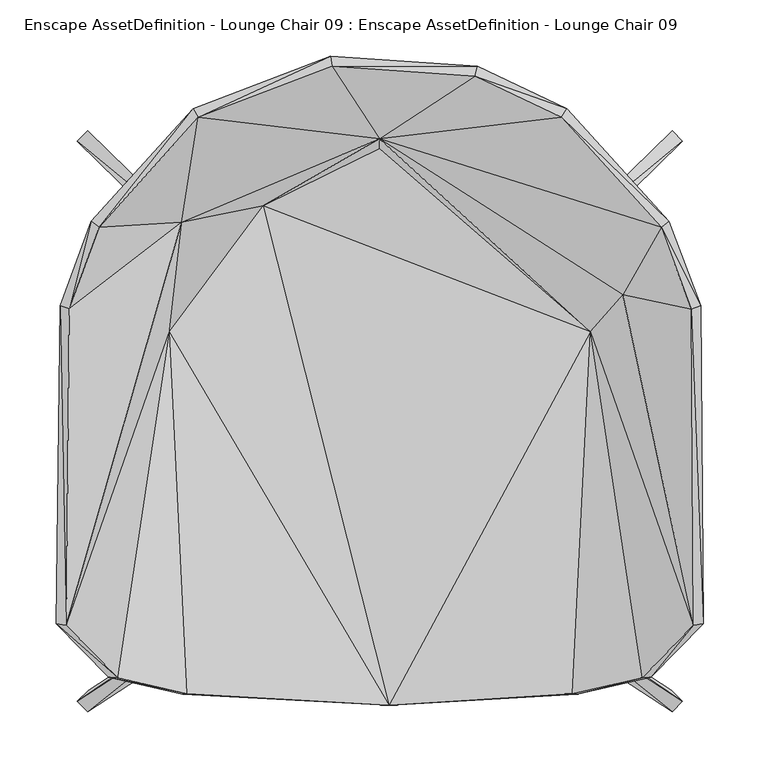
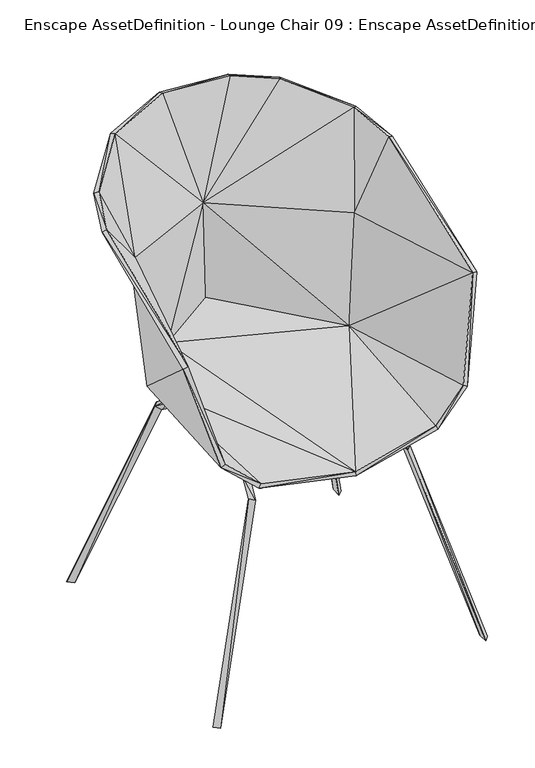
"""IFC4 building model written with IfcOpenShell, lengths in millimetres: geographic element geometry, Enscape AssetDefinition - Lounge Chair 09 : Enscape AssetDefinition - Lounge Chair 09."""

import ifcopenshell
import ifcopenshell.guid

model = None  # the IFC model being written
_history = None  # IfcOwnerHistory: only IFC2X3 demands one
_inside = {}  # id of a spatial element -> (the spatial element, [elements in it])
_under = {}  # id of a project, library or spatial element -> (it, [spatial elements below it])
_declared = {}  # id of a project -> (the project, [libraries it declares])
_typed = {}  # id of a type object -> (the type object, [elements of that type])
_made_of = {}  # id of a material, layer set ... -> (it, [elements and type objects made of it])


def new_model(schema):
    """Start an empty IFC model of exactly this schema.

    Asked for "IFC4X3", IfcOpenShell would pick the latest addendum, in which some entities
    have other attributes; the version numbers below select the first issue.
    IFC2X3 requires an IfcOwnerHistory on every rooted entity: one is made here for all.
    """
    global model, _history
    if schema == "IFC4X3":
        model = ifcopenshell.file(schema_version=(4, 3, 0, 0))
    else:
        model = ifcopenshell.file(schema=schema)
    _inside.clear()
    _under.clear()
    _declared.clear()
    _typed.clear()
    _made_of.clear()
    _history = None
    if model.schema == "IFC2X3":
        org = make("IfcOrganization", Name="unknown")
        user = make(
            "IfcPersonAndOrganization",
            ThePerson=make("IfcPerson", FamilyName="unknown"),
            TheOrganization=org,
        )
        app = make(
            "IfcApplication",
            ApplicationDeveloper=org,
            Version="unknown",
            ApplicationFullName="unknown",
            ApplicationIdentifier="unknown",
        )
        _history = make(
            "IfcOwnerHistory",
            OwningUser=user,
            OwningApplication=app,
            ChangeAction="ADDED",
            CreationDate=0,
        )
    return model


def make(cls, **values):
    """One entity of the class cls with the attributes given. An attribute that is None is left unset."""
    return model.create_entity(
        cls, **{name: value for name, value in values.items() if value is not None}
    )


def rooted(cls, **values):
    """An entity with a GlobalId (a new one), such as an element, a storey or a relation."""
    return make(cls, GlobalId=ifcopenshell.guid.new(), OwnerHistory=_history, **values)


def si_unit(unit_type, name, prefix=None):
    """IfcSIUnit, for example si_unit("LENGTHUNIT", "METRE", prefix="MILLI")."""
    return make("IfcSIUnit", UnitType=unit_type, Prefix=prefix, Name=name)


def assignment(units):
    """IfcUnitAssignment: the units of a project."""
    return None if units is None else make("IfcUnitAssignment", Units=units)


def point(xyz):
    """IfcCartesianPoint."""
    return None if xyz is None else make("IfcCartesianPoint", Coordinates=xyz)


def direction(xyz):
    """IfcDirection."""
    return None if xyz is None else make("IfcDirection", DirectionRatios=xyz)


def frame(location, z_axis=None, x_axis=None):
    """IfcAxis2Placement3D, a coordinate frame: its origin and axes. An axis left out is left unset."""
    return make(
        "IfcAxis2Placement3D",
        Location=point(location),
        Axis=direction(z_axis),
        RefDirection=direction(x_axis),
    )


def origin():
    """The frame at (0, 0, 0) with its axes left unset."""
    return frame((0.0, 0.0, 0.0))


def place(relative_to, where):
    """IfcLocalPlacement: puts the frame where relative to a parent placement (None: the world)."""
    return make(
        "IfcLocalPlacement", PlacementRelTo=relative_to, RelativePlacement=where
    )


def context(
    kind, dimensions, precision=None, world=None, true_north=None, identifier=None
):
    """IfcGeometricRepresentationContext, for example the 3D "Model" context."""
    return make(
        "IfcGeometricRepresentationContext",
        ContextIdentifier=identifier,
        ContextType=kind,
        CoordinateSpaceDimension=dimensions,
        Precision=precision,
        WorldCoordinateSystem=world,
        TrueNorth=true_north,
    )


def project(units=None, contexts=None):
    """IfcProject with its units and contexts."""
    return rooted(
        "IfcProject",
        Name="project",
        RepresentationContexts=contexts,
        UnitsInContext=assignment(units),
    )


def spatial(cls, under=None, at=None, **own):
    """A site, building, storey or space (cls), placed at a placement, below another one or the project."""
    s = rooted(cls, ObjectPlacement=at, **own)
    if under is not None:
        _under.setdefault(under.id(), (under, []))[1].append(s)
    return s


def faces_of(points, faces, orient=None, outer=None):
    """IfcFace entities. A face is a list of loops; a loop is a list of indices into points, from 0.

    orient and outer hold one flag for each loop. By default every Orientation is true, the
    first loop of a face is its IfcFaceOuterBound and the others are IfcFaceBound.
    """
    made = []
    for i, loops in enumerate(faces):
        bounds = []
        for j, loop in enumerate(loops):
            is_outer = j == 0 if outer is None else outer[i][j]
            bounds.append(
                make(
                    "IfcFaceOuterBound" if is_outer else "IfcFaceBound",
                    Bound=make("IfcPolyLoop", Polygon=[points[k] for k in loop]),
                    Orientation=True if orient is None else orient[i][j],
                )
            )
        made.append(make("IfcFace", Bounds=bounds))
    return made


def faceted_brep(points, faces, orient=None, outer=None, voids=None):
    """IfcFacetedBrep: a solid bounded by flat faces; with voids (closed shells), ...WithVoids."""
    shared = [point(p) for p in points]
    hull = make("IfcClosedShell", CfsFaces=faces_of(shared, faces, orient, outer))
    if voids is None:
        return make("IfcFacetedBrep", Outer=hull)
    return make(
        "IfcFacetedBrepWithVoids",
        Outer=hull,
        Voids=[
            make(cls, CfsFaces=faces_of(shared, fs, o, b)) for cls, fs, o, b in voids
        ],
    )


def shape(context_of_items, identifier, shape_type, items):
    """IfcShapeRepresentation: the items that make up one representation, for example the "Body"."""
    return make(
        "IfcShapeRepresentation",
        ContextOfItems=context_of_items,
        RepresentationIdentifier=identifier,
        RepresentationType=shape_type,
        Items=items,
    )


def source(mapping_origin, context_of_items, identifier, shape_type, items):
    """IfcRepresentationMap: a shape defined once, which mapped items show again and again."""
    return make(
        "IfcRepresentationMap",
        MappingOrigin=mapping_origin,
        MappedRepresentation=shape(context_of_items, identifier, shape_type, items),
    )


def transform(
    local_origin,
    x_axis=None,
    y_axis=None,
    z_axis=None,
    scale=None,
    scale2=None,
    scale3=None,
    uniform=True,
):
    """IfcCartesianTransformationOperator3D, or its non-uniform kind. x_axis, y_axis, z_axis: its Axis1, 2, 3."""
    if uniform:
        return make(
            "IfcCartesianTransformationOperator3D",
            Axis1=direction(x_axis),
            Axis2=direction(y_axis),
            LocalOrigin=point(local_origin),
            Scale=scale,
            Axis3=direction(z_axis),
        )
    return make(
        "IfcCartesianTransformationOperator3DnonUniform",
        Axis1=direction(x_axis),
        Axis2=direction(y_axis),
        LocalOrigin=point(local_origin),
        Scale=scale,
        Axis3=direction(z_axis),
        Scale2=scale2,
        Scale3=scale3,
    )


def mapped(mapping_source, mapping_target):
    """IfcMappedItem: shows the shape of a source again, moved by a transform."""
    return make(
        "IfcMappedItem", MappingSource=mapping_source, MappingTarget=mapping_target
    )


def made_of(thing, what):
    """Note that an element or type object is made of a material, layer set ...; save() writes the relation."""
    if what is not None:
        _made_of.setdefault(what.id(), (what, []))[1].append(thing)
    return thing


def element(
    cls,
    number,
    at=None,
    inside=None,
    cuts=None,
    type_object=None,
    material=None,
    context=None,
    identifier="Body",
    shape_type=None,
    held_by="IfcProductDefinitionShape",
    body=None,
    shapes=None,
    **own,
):
    """One element of the class cls, such as IfcWall. Its Tag is "e" and its number.

    at: its placement. inside: the storey or other place that contains it. cuts: it is an
    opening in that element (IfcRelVoidsElement). A single representation is given by context,
    identifier, shape_type and body (its items); several are given by shapes. held_by: the class
    of the entity that holds the representations. save() writes the other relations.
    """
    e = rooted(cls, Tag="e%d" % number, ObjectPlacement=at, **own)
    if body is not None:
        shapes = [shape(context, identifier, shape_type, body)]
    if shapes is not None:
        e.Representation = make(held_by, Representations=shapes)
    if inside is not None:
        _inside.setdefault(inside.id(), (inside, []))[1].append(e)
    if cuts is not None:
        rooted(
            "IfcRelVoidsElement", RelatingBuildingElement=cuts, RelatedOpeningElement=e
        )
    if type_object is not None:
        _typed.setdefault(type_object.id(), (type_object, []))[1].append(e)
    return made_of(e, material)


def aggregate(whole, parts):
    """IfcRelAggregates: a whole, such as a stair, and the parts it consists of."""
    return rooted("IfcRelAggregates", RelatingObject=whole, RelatedObjects=parts)


def save(model, path):
    """Write the relations noted so far, then the file.

    IfcRelAggregates (storeys below a building ...), IfcRelContainedInSpatialStructure (elements
    in a storey), IfcRelDefinesByType, IfcRelAssociatesMaterial and IfcRelDeclares: one each for
    every whole, place, type object, material and project.
    """
    for whole, parts in _under.values():
        aggregate(whole, parts)
    for where, things in _inside.values():
        rooted(
            "IfcRelContainedInSpatialStructure",
            RelatedElements=things,
            RelatingStructure=where,
        )
    for kind, things in _typed.values():
        rooted("IfcRelDefinesByType", RelatedObjects=things, RelatingType=kind)
    for what, things in _made_of.values():
        rooted("IfcRelAssociatesMaterial", RelatedObjects=things, RelatingMaterial=what)
    for by, libraries in _declared.values():
        rooted("IfcRelDeclares", RelatingContext=by, RelatedDefinitions=libraries)
    model.write(path)


def enscape_assetdefinition_lounge_chair_09_enscape_42831ebe(model_context):
    return source(origin(), model_context, "Body", "Brep", [
        faceted_brep([(258.9002252, 259.8875165, -0.2324126), (158.522144, 162.0799154, 389.5681798), (149.9228776, 153.7009627, 384.1864467), (268.9516246, 269.6813643, -0.2324126), (149.1782218, 171.3271439, 390.1715279), (151.2373984, 127.3416579, 415.2702093), (140.0908828, 127.9905587, 422.2351611), (259.778738, 279.0959477, -0.2324126), (144.2724615, 126.7550588, 404.1237235), (151.2373984, -124.1418049, 415.2702093), (140.0908828, -124.8334721, 422.2360849), (144.2724615, -123.5142946, 404.1237235), (158.4217399, -155.5667818, 389.9205029), (149.2814124, -165.0371253, 389.8043036), (149.6374756, -146.9870359, 385.1895034), (268.9432502, -227.3692638, -0.2324126), (259.7843111, -236.8275225, -0.2324126), (258.8936985, -217.9667801, -0.2324126)], [[[0, 1, 2]], [[1, 0, 3]], [[3, 4, 1]], [[5, 2, 1]], [[6, 1, 4]], [[1, 6, 5]], [[2, 7, 0]], [[7, 3, 0]], [[4, 3, 7]], [[7, 2, 4]], [[8, 4, 2]], [[4, 8, 6]], [[2, 5, 8]], [[9, 8, 5]], [[10, 5, 6]], [[5, 10, 9]], [[11, 6, 8]], [[6, 11, 10]], [[8, 9, 11]], [[12, 11, 9]], [[13, 9, 10]], [[9, 13, 12]], [[14, 10, 11]], [[10, 14, 13]], [[11, 12, 14]], [[15, 14, 12]], [[16, 12, 13]], [[12, 16, 15]], [[17, 13, 14]], [[13, 17, 16]], [[14, 15, 17]], [[17, 15, 16]]]),
        faceted_brep([(-258.8983476, 259.8875165, -0.2324126), (-158.5193574, 162.0799154, 389.5681798), (-268.9497471, 269.6813643, -0.2324126), (-149.9210149, 153.7009627, 384.1864467), (-149.1763592, 171.3271439, 390.1715279), (-151.2355357, 127.3416579, 415.2702093), (-140.089035, 127.9905587, 422.2351611), (-259.7768903, 279.0959477, -0.2324126), (-144.2705989, 126.7550588, 404.1237235), (-140.089035, -124.8334721, 422.2360849), (-144.2705989, -123.5142946, 404.1237235), (-151.2355357, -124.1418049, 415.2702093), (-158.4189534, -155.5667818, 389.9205029), (-149.635613, -146.9870359, 385.1895034), (-149.2795497, -165.0371253, 389.8043036), (-268.9413726, -227.3692638, -0.2324126), (-259.7824633, -236.8275225, -0.2324126), (-258.8918507, -217.9667801, -0.2324126)], [[[0, 1, 2]], [[1, 0, 3]], [[4, 2, 1]], [[3, 5, 1]], [[6, 1, 5]], [[1, 6, 4]], [[2, 4, 7]], [[0, 2, 7]], [[7, 3, 0]], [[3, 7, 4]], [[5, 3, 8]], [[4, 8, 3]], [[8, 4, 6]], [[5, 9, 6]], [[10, 6, 9]], [[6, 10, 8]], [[8, 11, 5]], [[9, 5, 11]], [[11, 8, 10]], [[10, 12, 11]], [[12, 10, 13]], [[9, 13, 10]], [[11, 14, 9]], [[13, 9, 14]], [[14, 11, 12]], [[13, 15, 12]], [[16, 12, 15]], [[12, 16, 14]], [[15, 13, 17]], [[14, 17, 13]], [[17, 14, 16]], [[16, 15, 17]]]),
        faceted_brep([(-175.0662029, -221.477136, 457.4809968), (-175.9558618, 108.1787795, 444.9037611), (8.9692678, -231.0636938, 424.8103201), (-240.9765571, -206.4019293, 513.8810277), (-210.8698189, 97.8234038, 487.8387153), (-107.3913649, 217.8859115, 464.332521), (8.339894, -231.0014069, 434.0854287), (-171.5800166, -221.1396694, 466.0923481), (-287.5938714, -158.7387472, 705.7441473), (-233.1712097, -206.5999508, 518.9262629), (-183.1597388, 203.5255879, 679.3448925), (-284.085393, 123.6081868, 816.6784048), (-278.7352502, -160.294041, 708.0971003), (-187.2111559, 100.4626825, 472.0402658), (-103.8410291, 212.3089284, 470.8679914), (-176.1064827, 197.9764998, 681.7740798), (-276.2465775, 120.7262725, 820.7623959), (-256.688565, 198.7564862, 842.7597284), (-249.6604323, 193.4658438, 845.7671404), (-0.2695986, 271.9608843, 688.3280873), (-161.5983546, 290.7946706, 876.6975999), (-166.1592275, 298.4642684, 874.0890026), (-74.3144006, 280.4727554, 686.1666441), (-43.7028706, 345.1550603, 888.1955147), (-42.6263325, 336.2740874, 890.7260299), (74.3162557, 280.4727554, 686.1666441), (86.5811408, 336.119771, 885.4873776), (0.0009297, 271.1539268, 492.7231371), (152.5417119, 184.7922057, 466.2169218), (175.9568155, 108.1787795, 444.9037611), (210.8707577, 97.8234038, 487.8387153), (240.9784198, -206.4019293, 513.8810277), (175.0680655, -221.477136, 457.4809968), (170.9273905, -221.1489826, 465.7985568), (233.1730723, -206.5999508, 518.9262629), (287.5957489, -158.7387472, 705.7441473), (278.6785364, -159.9575132, 708.0739141), (223.6014009, 137.6877427, 673.7567186), (285.0987017, 123.6081868, 816.6682124), (276.9001126, 120.6556112, 819.9061751), (215.8666998, 133.2105398, 676.3188839), (187.2167289, 100.7415727, 472.0932543), (-0.3281666, 263.2807493, 497.6549149), (250.0778437, 193.1339651, 846.090734), (161.3129377, 291.1497951, 877.1587014), (256.6895187, 198.7564862, 842.7597284), (84.5879689, 327.4070919, 888.043046), (166.1610901, 298.4642684, 874.0890026)], [[[0, 1, 2]], [[1, 3, 4]], [[3, 1, 0]], [[2, 1, 5]], [[1, 4, 5]], [[0, 6, 7]], [[6, 0, 2]], [[7, 3, 0]], [[8, 4, 3]], [[9, 8, 3]], [[3, 7, 9]], [[10, 5, 4]], [[4, 8, 10]], [[8, 11, 10]], [[12, 11, 8]], [[8, 9, 12]], [[13, 12, 9]], [[13, 9, 7]], [[13, 7, 6]], [[13, 6, 14]], [[14, 15, 13]], [[12, 13, 15]], [[16, 12, 15]], [[11, 12, 16]], [[17, 10, 11]], [[16, 17, 11]], [[15, 18, 16]], [[17, 16, 18]], [[15, 19, 20]], [[15, 20, 18]], [[15, 14, 19]], [[21, 18, 20]], [[18, 21, 17]], [[21, 10, 17]], [[22, 10, 21]], [[21, 23, 22]], [[20, 23, 21]], [[24, 20, 19]], [[23, 20, 24]], [[25, 23, 26]], [[25, 22, 23]], [[24, 26, 23]], [[27, 22, 25]], [[5, 10, 22]], [[22, 27, 5]], [[5, 27, 28]], [[27, 25, 28]], [[5, 29, 2]], [[28, 29, 5]], [[29, 28, 30]], [[25, 30, 28]], [[31, 29, 30]], [[29, 31, 32]], [[29, 32, 2]], [[2, 33, 6]], [[33, 2, 32]], [[32, 34, 33]], [[34, 32, 31]], [[30, 35, 31]], [[31, 36, 34]], [[36, 31, 35]], [[30, 25, 37]], [[35, 30, 37]], [[37, 38, 35]], [[35, 39, 36]], [[39, 35, 38]], [[39, 40, 36]], [[36, 41, 34]], [[41, 36, 40]], [[34, 41, 33]], [[41, 14, 6]], [[41, 42, 14]], [[41, 19, 42]], [[33, 41, 6]], [[19, 41, 40]], [[40, 43, 19]], [[40, 39, 43]], [[38, 43, 39]], [[44, 19, 43]], [[45, 44, 43]], [[43, 38, 45]], [[24, 19, 46]], [[42, 19, 14]], [[44, 46, 19]], [[44, 45, 47]], [[47, 46, 44]], [[45, 37, 25]], [[25, 47, 45]], [[38, 37, 45]], [[26, 47, 25]], [[46, 47, 26]], [[26, 24, 46]]]),
        faceted_brep([(139.6083981, -106.6522896, 411.4437699), (0.0009297, -125.2453029, 437.9025698), (0.0009297, -106.6522896, 429.9391508), (140.5743062, -125.2453029, 419.3160534), (140.5743062, -88.0592763, 419.3160534), (0.0009297, -88.0592763, 437.9025698), (-140.5724585, -125.2453029, 419.3160534), (-139.6065503, -106.6522896, 411.4437699), (-140.5724585, -88.0592763, 419.3160534)], [[[0, 1, 2]], [[1, 0, 3]], [[1, 4, 5]], [[4, 1, 3]], [[6, 2, 1]], [[5, 6, 1]], [[0, 5, 4]], [[5, 0, 2]], [[0, 4, 3]], [[2, 6, 7]], [[2, 8, 5]], [[8, 2, 7]], [[6, 5, 8]], [[7, 6, 8]]]),
        faceted_brep([(139.6083981, 109.6885279, 411.4437699), (0.0009297, 91.0955146, 440.0714338), (0.0009297, 109.6885279, 432.1080744), (140.5743062, 91.0955146, 419.3160534), (140.5743062, 128.2815337, 419.3160534), (0.0009297, 128.2815337, 440.0714338), (-140.5724585, 91.0955146, 419.3160534), (-139.6065503, 109.6885279, 411.4437699), (-140.5724585, 128.2815337, 419.3160534)], [[[0, 1, 2]], [[1, 0, 3]], [[1, 4, 5]], [[4, 1, 3]], [[6, 2, 1]], [[5, 6, 1]], [[0, 5, 4]], [[5, 0, 2]], [[0, 4, 3]], [[2, 6, 7]], [[2, 8, 5]], [[8, 2, 7]], [[6, 5, 8]], [[7, 6, 8]]]),
    ])


if __name__ == "__main__":
    model = new_model("IFC4")
    model_context = context("Model", 3, world=origin())
    ifc_project = project(units=[si_unit("LENGTHUNIT", "METRE", prefix="MILLI")], contexts=[model_context])
    site = spatial("IfcSite", under=ifc_project)
    building = spatial("IfcBuilding", under=site)
    placement = place(None, origin())
    enscape_assetdefinition_lounge_chair_09_enscape_shape = enscape_assetdefinition_lounge_chair_09_enscape_42831ebe(model_context)
    element("IfcGeographicElement", 1, ObjectType="Enscape AssetDefinition - Lounge Chair 09 : Enscape AssetDefinition - Lounge Chair 09", at=placement, inside=building, context=model_context, shape_type="MappedRepresentation", body=[
        mapped(enscape_assetdefinition_lounge_chair_09_enscape_shape, transform((0.0, 0.0, 0.0), x_axis=(1.0, 0.0, 0.0), y_axis=(0.0, 1.0, 0.0), z_axis=(0.0, 0.0, 1.0))),
    ])
    save(model, "model.ifc")
